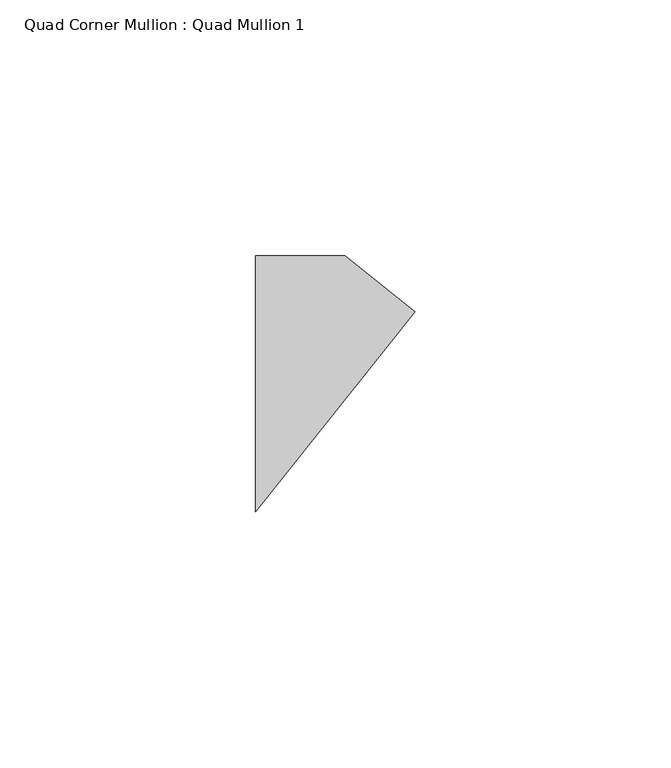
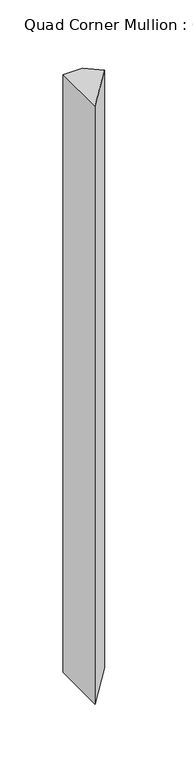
"""IFC4 building model written with IfcOpenShell, lengths in millimetres: member geometry, Quad Corner Mullion : Quad Mullion 1."""

from ifc_helpers import new_model, si_unit, frame, origin, place, context, project, spatial, polyline, outline, extrude, source, transform, mapped, element, save


def quad_corner_mullion_quad_mullion_1_f5291f91(model_context):
    return source(origin(), model_context, "Body", "SweptSolid", [
        extrude(outline(polyline([(22.4169637, 14.1035695), (-8.7424787, -25.0), (-8.7424787, 25.0), (8.7424787, 25.0), (22.4169637, 14.1035695)])), frame((0.0, 0.0, -575.0), z_axis=(0.0, 0.0, 1.0), x_axis=(1.0, 0.0, 0.0)), (0.0, 0.0, 1.0), 575.0),
    ])


if __name__ == "__main__":
    model = new_model("IFC4")
    model_context = context("Model", 3, world=origin())
    ifc_project = project(units=[si_unit("LENGTHUNIT", "METRE", prefix="MILLI")], contexts=[model_context])
    site = spatial("IfcSite", under=ifc_project)
    building = spatial("IfcBuilding", under=site)
    placement = place(None, origin())
    quad_corner_mullion_quad_mullion_1_shape = quad_corner_mullion_quad_mullion_1_f5291f91(model_context)
    element("IfcMember", 1, ObjectType="Quad Corner Mullion : Quad Mullion 1", at=placement, inside=building, context=model_context, shape_type="MappedRepresentation", body=[
        mapped(quad_corner_mullion_quad_mullion_1_shape, transform((0.0, 0.0, 0.0), x_axis=(1.0, 0.0, 0.0), y_axis=(0.0, 1.0, 0.0), z_axis=(0.0, 0.0, 1.0))),
    ])
    save(model, "model.ifc")
